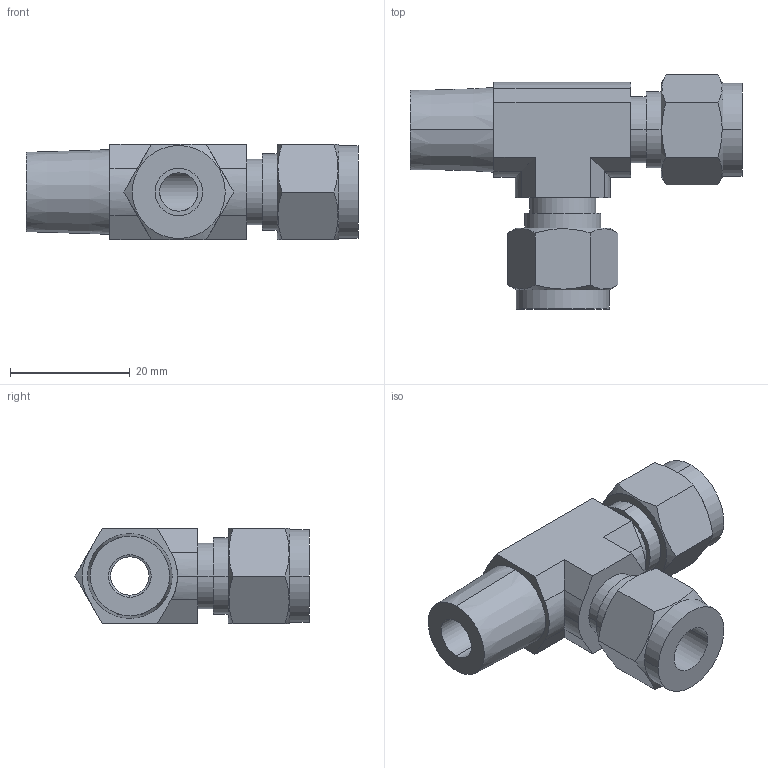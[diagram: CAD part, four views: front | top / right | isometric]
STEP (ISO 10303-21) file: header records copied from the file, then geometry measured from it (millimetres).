
FILE_DESCRIPTION (( 'STEP AP203' ), '1' );
FILE_NAME ('DTK 05-04 SS.STEP', '2009-09-08T10:03:11', ( ' ' ), ( '' ), 'SwSTEP 2.0', 'SolidWorks 2008', '' );
FILE_SCHEMA (( 'CONFIG_CONTROL_DESIGN' ));
Length unit declared in the file: millimetre
Products named in the file (1): DTK 05-04 SS
Bounding box: 55.4 x 39.07 x 15.9 mm (x, y, z)
Volume: 11217.6 mm3; surface area: 6498.4 mm2
Topology: 1 solids, 1 shells, 76 faces, 185 edges, 120 vertices
Faces by surface type: plane 36, cylinder 28, cone 12
Entity records: 2573 total; most frequent: CARTESIAN_POINT 719, ORIENTED_EDGE 370, DIRECTION 361, EDGE_CURVE 185, AXIS2_PLACEMENT_3D 136, VERTEX_POINT 120, EDGE_LOOP 89, VECTOR 89
